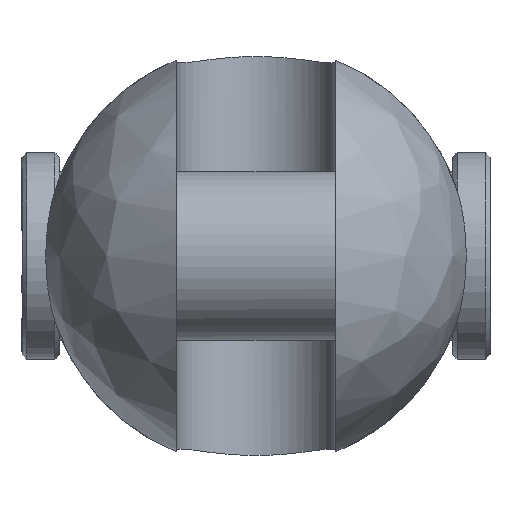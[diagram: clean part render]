
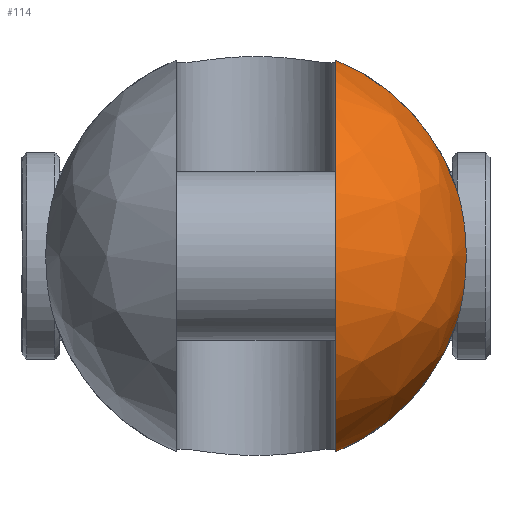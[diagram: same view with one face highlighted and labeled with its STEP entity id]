
A CAD part, left-side view. The second image highlights one B-rep face of the part: STEP entity #114.
In plain terms, the highlighted free-form (B-spline) face has degree [2, 2] with [9, 5] control points.
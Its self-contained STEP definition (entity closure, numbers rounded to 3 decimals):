
#114=ADVANCED_FACE('',(#202),#1530,.T.);
#202=FACE_OUTER_BOUND('',#302,.T.);
#302=EDGE_LOOP('',(#744,#745,#746,#747));
#744=ORIENTED_EDGE('',*,*,#1000,.T.);
#745=ORIENTED_EDGE('',*,*,#997,.F.);
#746=ORIENTED_EDGE('',*,*,#1014,.T.);
#747=ORIENTED_EDGE('',*,*,#991,.F.);
#991=EDGE_CURVE('',#1420,#1421,#1252,.T.);
#997=EDGE_CURVE('',#1428,#1429,#1253,.T.);
#1000=EDGE_CURVE('',#1420,#1429,#1255,.T.);
#1014=EDGE_CURVE('',#1428,#1421,#1123,.T.);
#1123=B_SPLINE_CURVE_WITH_KNOTS('',3,(#3559,#3560,#3561,#3562,#3563,#3564,
#3565,#3566,#3567,#3568,#3569,#3570,#3571,#3572),.UNSPECIFIED.,.F.,.F.,
(4,2,2,2,2,2,4),(0.,0.959,4.487,8.014,
11.541,15.068,16.028),.UNSPECIFIED.);
#1252=(
BOUNDED_CURVE()
B_SPLINE_CURVE(2,(#3467,#3468,#3469),.UNSPECIFIED.,.F.,.F.)
B_SPLINE_CURVE_WITH_KNOTS((3,3),(0.,19.159),.UNSPECIFIED.)
CURVE()
GEOMETRIC_REPRESENTATION_ITEM()
RATIONAL_B_SPLINE_CURVE((1.,0.911,1.))
REPRESENTATION_ITEM('')
);
#1253=(
BOUNDED_CURVE()
B_SPLINE_CURVE(2,(#3496,#3497,#3498),.UNSPECIFIED.,.F.,.F.)
B_SPLINE_CURVE_WITH_KNOTS((3,3),(0.,19.159),.UNSPECIFIED.)
CURVE()
GEOMETRIC_REPRESENTATION_ITEM()
RATIONAL_B_SPLINE_CURVE((1.,0.911,1.))
REPRESENTATION_ITEM('')
);
#1255=(
BOUNDED_CURVE()
B_SPLINE_CURVE(2,(#3504,#3505,#3506,#3507,#3508),.UNSPECIFIED.,.F.,.F.)
B_SPLINE_CURVE_WITH_KNOTS((3,2,3),(-65.448,-32.724,
0.),.UNSPECIFIED.)
CURVE()
GEOMETRIC_REPRESENTATION_ITEM()
RATIONAL_B_SPLINE_CURVE((1.,0.707,1.,0.707,1.))
REPRESENTATION_ITEM('')
);
#1420=VERTEX_POINT('',#3297);
#1421=VERTEX_POINT('',#3298);
#1428=VERTEX_POINT('',#3305);
#1429=VERTEX_POINT('',#3306);
#1530=(
BOUNDED_SURFACE()
B_SPLINE_SURFACE(2,2,((#3169,#3170,#3171,#3172,#3173),(#3174,#3175,#3176,
#3177,#3178),(#3179,#3180,#3181,#3182,#3183),(#3184,#3185,#3186,#3187,#3188),
(#3189,#3190,#3191,#3192,#3193),(#3194,#3195,#3196,#3197,#3198),(#3199,
#3200,#3201,#3202,#3203),(#3204,#3205,#3206,#3207,#3208),(#3209,#3210,#3211,
#3212,#3213)),.UNSPECIFIED.,.T.,.F.,.F.)
B_SPLINE_SURFACE_WITH_KNOTS((3,2,2,2,3),(3,2,3),(0.,35.343,70.686,
106.029,141.372),(0.,35.343,70.686),
 .UNSPECIFIED.)
GEOMETRIC_REPRESENTATION_ITEM()
RATIONAL_B_SPLINE_SURFACE(((1.,0.707,1.,0.707,1.),
(0.707,0.5,0.707,0.5,0.707),(1.,0.707,
1.,0.707,1.),(0.707,0.5,0.707,0.5,0.707),
(1.,0.707,1.,0.707,1.),(0.707,0.5,0.707,
0.5,0.707),(1.,0.707,1.,0.707,1.),(0.707,
0.5,0.707,0.5,0.707),(1.,0.707,1.,0.707,
1.)))
REPRESENTATION_ITEM('')
SURFACE()
);
#3169=CARTESIAN_POINT('',(-32.,0.,0.));
#3170=CARTESIAN_POINT('',(-32.,22.5,0.));
#3171=CARTESIAN_POINT('',(-9.5,22.5,0.));
#3172=CARTESIAN_POINT('',(13.,22.5,0.));
#3173=CARTESIAN_POINT('',(13.,0.,0.));
#3174=CARTESIAN_POINT('',(-32.,0.,0.));
#3175=CARTESIAN_POINT('',(-32.,22.5,22.5));
#3176=CARTESIAN_POINT('',(-9.5,22.5,22.5));
#3177=CARTESIAN_POINT('',(13.,22.5,22.5));
#3178=CARTESIAN_POINT('',(13.,0.,0.));
#3179=CARTESIAN_POINT('',(-32.,0.,0.));
#3180=CARTESIAN_POINT('',(-32.,0.,22.5));
#3181=CARTESIAN_POINT('',(-9.5,0.,22.5));
#3182=CARTESIAN_POINT('',(13.,0.,22.5));
#3183=CARTESIAN_POINT('',(13.,0.,0.));
#3184=CARTESIAN_POINT('',(-32.,0.,0.));
#3185=CARTESIAN_POINT('',(-32.,-22.5,22.5));
#3186=CARTESIAN_POINT('',(-9.5,-22.5,22.5));
#3187=CARTESIAN_POINT('',(13.,-22.5,22.5));
#3188=CARTESIAN_POINT('',(13.,0.,0.));
#3189=CARTESIAN_POINT('',(-32.,0.,0.));
#3190=CARTESIAN_POINT('',(-32.,-22.5,0.));
#3191=CARTESIAN_POINT('',(-9.5,-22.5,0.));
#3192=CARTESIAN_POINT('',(13.,-22.5,0.));
#3193=CARTESIAN_POINT('',(13.,0.,0.));
#3194=CARTESIAN_POINT('',(-32.,0.,0.));
#3195=CARTESIAN_POINT('',(-32.,-22.5,-22.5));
#3196=CARTESIAN_POINT('',(-9.5,-22.5,-22.5));
#3197=CARTESIAN_POINT('',(13.,-22.5,-22.5));
#3198=CARTESIAN_POINT('',(13.,0.,0.));
#3199=CARTESIAN_POINT('',(-32.,0.,0.));
#3200=CARTESIAN_POINT('',(-32.,0.,-22.5));
#3201=CARTESIAN_POINT('',(-9.5,0.,-22.5));
#3202=CARTESIAN_POINT('',(13.,0.,-22.5));
#3203=CARTESIAN_POINT('',(13.,0.,0.));
#3204=CARTESIAN_POINT('',(-32.,0.,0.));
#3205=CARTESIAN_POINT('',(-32.,22.5,-22.5));
#3206=CARTESIAN_POINT('',(-9.5,22.5,-22.5));
#3207=CARTESIAN_POINT('',(13.,22.5,-22.5));
#3208=CARTESIAN_POINT('',(13.,0.,0.));
#3209=CARTESIAN_POINT('',(-32.,0.,0.));
#3210=CARTESIAN_POINT('',(-32.,22.5,0.));
#3211=CARTESIAN_POINT('',(-9.5,22.5,0.));
#3212=CARTESIAN_POINT('',(13.,22.5,0.));
#3213=CARTESIAN_POINT('',(13.,0.,0.));
#3297=CARTESIAN_POINT('',(-9.5,-8.5,20.833));
#3298=CARTESIAN_POINT('',(-9.5,-21.272,7.331));
#3305=CARTESIAN_POINT('',(-9.5,-21.272,-7.331));
#3306=CARTESIAN_POINT('',(-9.5,-8.5,-20.833));
#3467=CARTESIAN_POINT('',(-9.5,-8.5,20.833));
#3468=CARTESIAN_POINT('',(-9.5,-17.947,16.978));
#3469=CARTESIAN_POINT('',(-9.5,-21.272,7.331));
#3496=CARTESIAN_POINT('',(-9.5,-21.272,-7.331));
#3497=CARTESIAN_POINT('',(-9.5,-17.947,-16.978));
#3498=CARTESIAN_POINT('',(-9.5,-8.5,-20.833));
#3504=CARTESIAN_POINT('',(-9.5,-8.5,20.833));
#3505=CARTESIAN_POINT('',(-30.333,-8.5,20.833));
#3506=CARTESIAN_POINT('',(-30.333,-8.5,0.));
#3507=CARTESIAN_POINT('',(-30.333,-8.5,-20.833));
#3508=CARTESIAN_POINT('',(-9.5,-8.5,-20.833));
#3559=CARTESIAN_POINT('',(-9.5,-21.272,-7.331));
#3560=CARTESIAN_POINT('',(-9.685,-21.355,-7.091));
#3561=CARTESIAN_POINT('',(-9.86,-21.432,-6.846));
#3562=CARTESIAN_POINT('',(-10.62,-21.768,-5.692));
#3563=CARTESIAN_POINT('',(-11.143,-21.994,-4.611));
#3564=CARTESIAN_POINT('',(-11.833,-22.29,-2.325));
#3565=CARTESIAN_POINT('',(-12.,-22.361,-1.119));
#3566=CARTESIAN_POINT('',(-12.,-22.361,1.119));
#3567=CARTESIAN_POINT('',(-11.833,-22.29,2.325));
#3568=CARTESIAN_POINT('',(-11.143,-21.994,4.611));
#3569=CARTESIAN_POINT('',(-10.62,-21.768,5.692));
#3570=CARTESIAN_POINT('',(-9.86,-21.432,6.846));
#3571=CARTESIAN_POINT('',(-9.685,-21.355,7.091));
#3572=CARTESIAN_POINT('',(-9.5,-21.272,7.331));
